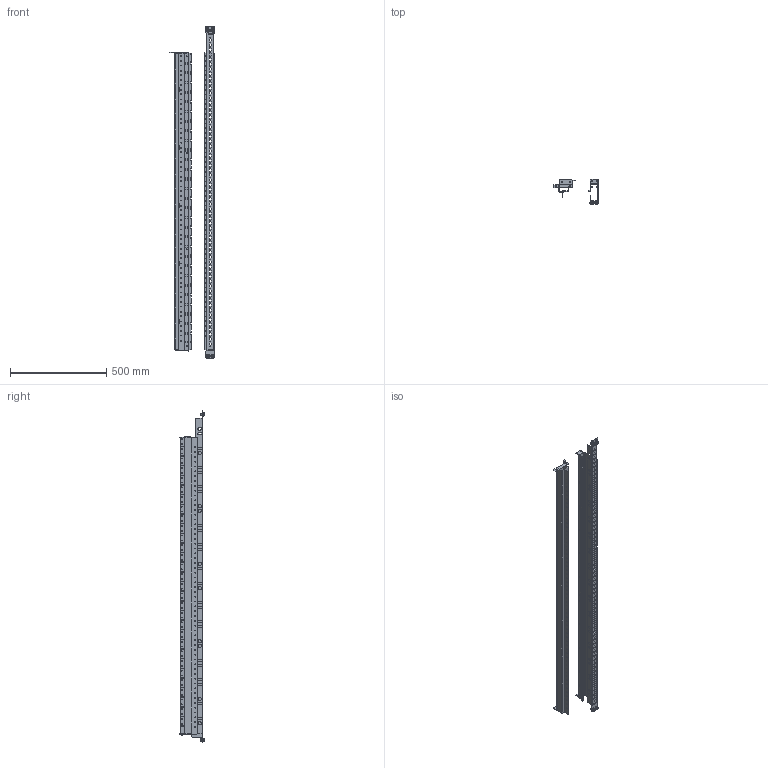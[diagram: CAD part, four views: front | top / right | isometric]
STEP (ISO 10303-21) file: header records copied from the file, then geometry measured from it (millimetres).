
FILE_DESCRIPTION(('CAx-IF Rec.Pracs.---Model Styling and Organization---1.2---2011-12-15','CAx-IF Rec.Pracs.---Geometric and Assembly Validation Properties---4.1---2014-06-16','CAx-IF Rec.Pracs.---PMI Polyline Presentation---2.0---2013-05-24'),'2;1');
FILE_NAME('R5M2ACRS30M8.stp','2021-05-05T12:00:21+03:00',(''),(''),'STEP Interface 4.4 by CT CoreTechnologie','3D_Evolution4.4 by CT CoreTechnologie','');
FILE_SCHEMA(('AUTOMOTIVE_DESIGN { 1 0 10303 214 1 1 1 1 }'));
Length unit declared in the file: millimetre
Products named in the file (11): R5M2ACRS30M8; M8-DIN 6923 (CM100800)_thread; M8x16-DIN 6921_thread; RB.1271.00.00.0 ÑÁ_-00; RB.1271.00.01.0_-00; RB.1271.00.02.0_-00; M5x8-DIN7500C_stright; RB.1397.00.00.0_- 00 (KODIROVKA); RB.0838.00.00.0_-02; RB.0857.00.00.0_-00; RB.0502.00.00.0_-01
Assembly tree (19 placements, depth 3):
  R5M2ACRS30M8
    M8-DIN 6923 (CM100800)_thread  x4
    M8x16-DIN 6921_thread  x4
    RB.1271.00.00.0 ÑÁ_-00
      RB.1271.00.01.0_-00
      RB.1271.00.02.0_-00
      M5x8-DIN7500C_stright  x4
    RB.1397.00.00.0_- 00 (KODIROVKA)
    RB.0838.00.00.0_-02
    RB.0857.00.00.0_-00
    RB.0502.00.00.0_-01
Bounding box: 232.5 x 130 x 1720.95 mm (x, y, z)
Surface area: 1875105.4 mm2 (no closed solid volume)
Topology: 0 solids, 22 shells, 3536 faces, 10313 edges, 6751 vertices
Faces by surface type: plane 1802, cylinder 1476, bspline 258
Entity records: 114423 total; most frequent: CARTESIAN_POINT 20608, ORIENTED_EDGE 19402, DIRECTION 18967, EDGE_CURVE 9701, VECTOR 6735, LINE 6735, VERTEX_POINT 6415, AXIS2_PLACEMENT_3D 6116
